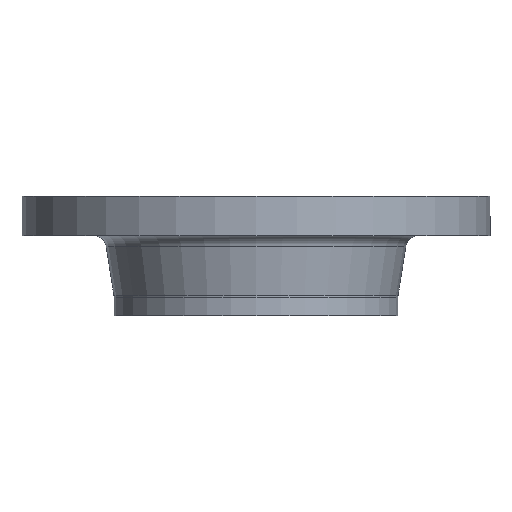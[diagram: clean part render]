
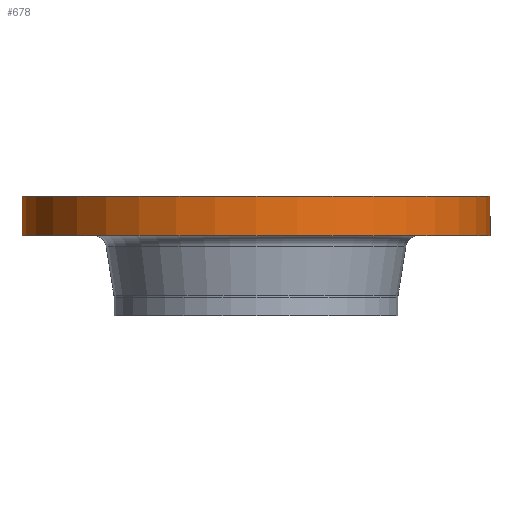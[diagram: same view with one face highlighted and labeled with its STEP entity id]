
A CAD part, front view. The second image highlights one B-rep face of the part: STEP entity #678.
In plain terms, the highlighted cylindrical face has radius 225 mm (diameter 450 mm), a partial arc.
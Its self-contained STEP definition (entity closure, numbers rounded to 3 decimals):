
#3 = CIRCLE ( 'NONE', #747, 225. ) ;
#63 = EDGE_CURVE ( 'NONE', #1051, #1046, #819, .T. ) ;
#158 = EDGE_CURVE ( 'NONE', #960, #1051, #3, .T. ) ;
#200 = AXIS2_PLACEMENT_3D ( 'NONE', #593, #591, #590 ) ;
#207 = CIRCLE ( 'NONE', #200, 225. ) ;
#262 = CARTESIAN_POINT ( 'NONE',  ( 225., 0., -38. ) ) ;
#267 = CARTESIAN_POINT ( 'NONE',  ( 225., 0., 0. ) ) ;
#287 = CARTESIAN_POINT ( 'NONE',  ( -225., 0., 0. ) ) ;
#325 = CARTESIAN_POINT ( 'NONE',  ( -225., 0., -38. ) ) ;
#351 = DIRECTION ( 'NONE',  ( 0., 0., 1. ) ) ;
#352 = CARTESIAN_POINT ( 'NONE',  ( -225., 0., -115. ) ) ;
#353 = LINE ( 'NONE', #352, #414 ) ;
#372 = EDGE_CURVE ( 'NONE', #998, #1046, #207, .T. ) ;
#414 = VECTOR ( 'NONE', #351, 1000. ) ;
#441 = DIRECTION ( 'NONE',  ( 1., 0., 0. ) ) ;
#442 = DIRECTION ( 'NONE',  ( 0., 0., 1. ) ) ;
#443 = CARTESIAN_POINT ( 'NONE',  ( 0., 0., -115. ) ) ;
#444 = CYLINDRICAL_SURFACE ( 'NONE', #843, 225. ) ;
#445 = FACE_OUTER_BOUND ( 'NONE', #997, .T. ) ;
#590 = DIRECTION ( 'NONE',  ( 1., 0., 0. ) ) ;
#591 = DIRECTION ( 'NONE',  ( 0., 0., 1. ) ) ;
#593 = CARTESIAN_POINT ( 'NONE',  ( 0., 0., 0. ) ) ;
#673 = DIRECTION ( 'NONE',  ( 1., 0., 0. ) ) ;
#674 = DIRECTION ( 'NONE',  ( 0., 0., 1. ) ) ;
#678 = ADVANCED_FACE ( 'NONE', ( #445 ), #444, .T. ) ;
#692 = CARTESIAN_POINT ( 'NONE',  ( 0., 0., -38. ) ) ;
#747 = AXIS2_PLACEMENT_3D ( 'NONE', #692, #674, #673 ) ;
#774 = DIRECTION ( 'NONE',  ( 0., 0., 1. ) ) ;
#819 = LINE ( 'NONE', #824, #1085 ) ;
#824 = CARTESIAN_POINT ( 'NONE',  ( 225., 0., -115. ) ) ;
#843 = AXIS2_PLACEMENT_3D ( 'NONE', #443, #442, #441 ) ;
#944 = EDGE_CURVE ( 'NONE', #960, #998, #353, .T. ) ;
#960 = VERTEX_POINT ( 'NONE', #325 ) ;
#997 = EDGE_LOOP ( 'NONE', ( #1172, #1175, #1176, #1177 ) ) ;
#998 = VERTEX_POINT ( 'NONE', #287 ) ;
#1046 = VERTEX_POINT ( 'NONE', #267 ) ;
#1051 = VERTEX_POINT ( 'NONE', #262 ) ;
#1085 = VECTOR ( 'NONE', #774, 1000. ) ;
#1172 = ORIENTED_EDGE ( 'NONE', *, *, #944, .F. ) ;
#1175 = ORIENTED_EDGE ( 'NONE', *, *, #158, .T. ) ;
#1176 = ORIENTED_EDGE ( 'NONE', *, *, #63, .T. ) ;
#1177 = ORIENTED_EDGE ( 'NONE', *, *, #372, .F. ) ;
